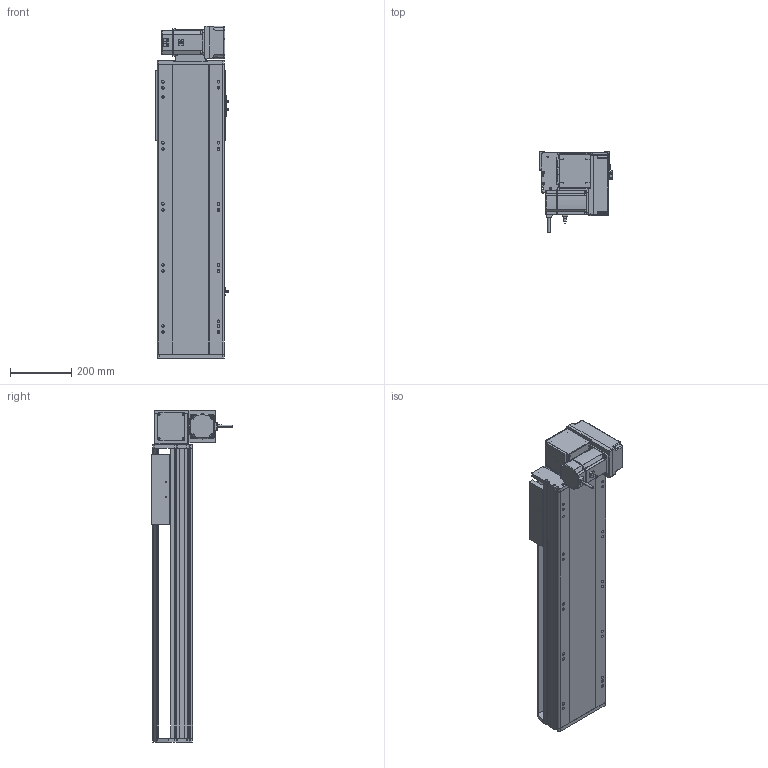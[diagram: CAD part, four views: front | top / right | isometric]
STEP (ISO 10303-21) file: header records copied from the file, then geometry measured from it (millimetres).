
FILE_DESCRIPTION (( 'STEP AP214' ), '1' );
FILE_NAME ('RTB22S-XX-600-RM-M75-C4.STEP', '2025-12-12T07:44:51', ( '' ), ( '' ), 'SwSTEP 2.0', 'SolidWorks 2018', '' );
FILE_SCHEMA (( 'AUTOMOTIVE_DESIGN' ));
Length unit declared in the file: millimetre
Products named in the file (14): RTB22S-GY-007奻裔^RTB22S-XX-XX-RM-M75-C4; RTB22S-GY-008-M75--萇儂啣^RTB22S-RM-々湍釱蚾饜_RTB22S-XX-XX-RM-M75-C4; 750W萇儂^RTB22S-XX-XX-RM-M75-C4; RTB22S-XX-600-RM-M75-C4; RTB22S-GY-001耜裔^RTB22S-XX-XX-RM-M75-C4; RTB22S-GY-014--々湍釱^RTB22S-RM-々湍釱蚾饜_RTB22S-XX-XX-RM-M75-C4; RTB22S-L-011菁釱^RTB22S-XX-XX-RM-M75-C4; RTB22S-GY-018P^RTB22S-RM-々湍釱蚾饜_RTB22S-XX-XX-RM-M75-C4; RTB22S-GY-005P^RTB22S-RM-々湍釱蚾饜_RTB22S-XX-XX-RM-M75-C4; RTB22S-RM-々湍釱蚾饜^RTB22S-XX-XX-RM-M75-C4; RTB22S-L-004賑釱^RTB22S-XX-XX-RM-M75-C4; RTH22-GY-013外置感应片^RTB22S-XX-XX-RM-M75-C4; OMRON EE-SX672 传感器^RTB22S-XX-XX-RM-M75-C4; RTB22S-GY-017P^RTB22S-RM-々湍釱蚾饜_RTB22S-XX-XX-RM-M75-C4
Assembly tree (16 placements, depth 3):
  RTB22S-XX-600-RM-M75-C4
    RTB22S-L-011菁釱^RTB22S-XX-XX-RM-M75-C4
    RTB22S-GY-001耜裔^RTB22S-XX-XX-RM-M75-C4
    750W萇儂^RTB22S-XX-XX-RM-M75-C4
    RTB22S-GY-007奻裔^RTB22S-XX-XX-RM-M75-C4
    RTB22S-L-004賑釱^RTB22S-XX-XX-RM-M75-C4
    RTH22-GY-013外置感应片^RTB22S-XX-XX-RM-M75-C4
    OMRON EE-SX672 传感器^RTB22S-XX-XX-RM-M75-C4  x3
    RTB22S-RM-々湍釱蚾饜^RTB22S-XX-XX-RM-M75-C4
      RTB22S-GY-014--々湍釱^RTB22S-RM-々湍釱蚾饜_RTB22S-XX-XX-RM-M75-C4
      RTB22S-GY-017P^RTB22S-RM-々湍釱蚾饜_RTB22S-XX-XX-RM-M75-C4  x2
      RTB22S-GY-005P^RTB22S-RM-々湍釱蚾饜_RTB22S-XX-XX-RM-M75-C4
      RTB22S-GY-008-M75--萇儂啣^RTB22S-RM-々湍釱蚾饜_RTB22S-XX-XX-RM-M75-C4
      RTB22S-GY-018P^RTB22S-RM-々湍釱蚾饜_RTB22S-XX-XX-RM-M75-C4
Bounding box: 238.5 x 264.7 x 1087.5 mm (x, y, z)
Volume: 16633180 mm3; surface area: 1749088.7 mm2
Topology: 15 solids, 15 shells, 1929 faces, 5236 edges, 3362 vertices
Faces by surface type: plane 909, cylinder 586, bspline 296, cone 126, sphere 8, torus 4
Entity records: 50794 total; most frequent: CARTESIAN_POINT 14728, ORIENTED_EDGE 7284, DIRECTION 6956, EDGE_CURVE 3642, AXIS2_PLACEMENT_3D 2434, VERTEX_POINT 2366, VECTOR 2088, LINE 2088
